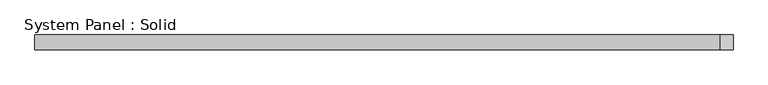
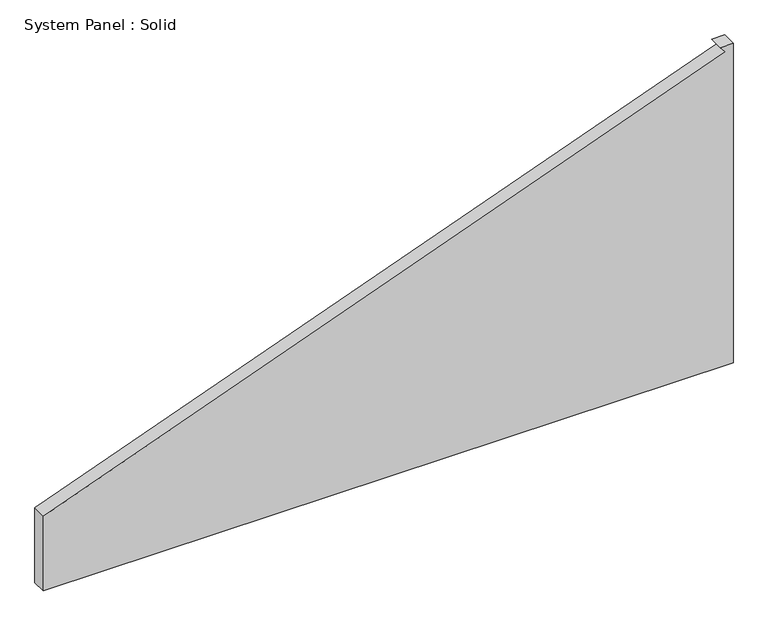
"""IFC4 building model written with IfcOpenShell, lengths in millimetres: plate geometry, System Panel : Solid."""

from ifc_helpers import new_model, si_unit, frame, origin, place, context, project, spatial, polyline, outline, extrude, source, transform, mapped, element, save


def system_panel_solid_94e46eaf(model_context):
    return source(origin(), model_context, "Body", "SweptSolid", [
        extrude(outline(polyline([(0.0, -1492.25), (0.0, 1492.25), (1460.5, 1492.25), (1460.5, 1436.9315096), (1432.6865246, 1458.9415618), (342.1544521, -1492.25), (0.0, -1492.25)])), frame((0.0, -19.05, 0.0), z_axis=(0.0, 1.0, 0.0), x_axis=(0.0, 0.0, 1.0)), (0.0, 0.0, 1.0), 63.5),
    ])


if __name__ == "__main__":
    model = new_model("IFC4")
    model_context = context("Model", 3, world=origin())
    ifc_project = project(units=[si_unit("LENGTHUNIT", "METRE", prefix="MILLI")], contexts=[model_context])
    site = spatial("IfcSite", under=ifc_project)
    building = spatial("IfcBuilding", under=site)
    placement = place(None, origin())
    system_panel_solid_shape = system_panel_solid_94e46eaf(model_context)
    element("IfcPlate", 1, ObjectType="System Panel : Solid", at=placement, inside=building, context=model_context, shape_type="MappedRepresentation", body=[
        mapped(system_panel_solid_shape, transform((0.0, 0.0, 0.0), x_axis=(1.0, 0.0, 0.0), y_axis=(0.0, 1.0, 0.0), z_axis=(0.0, 0.0, 1.0))),
    ])
    save(model, "model.ifc")
